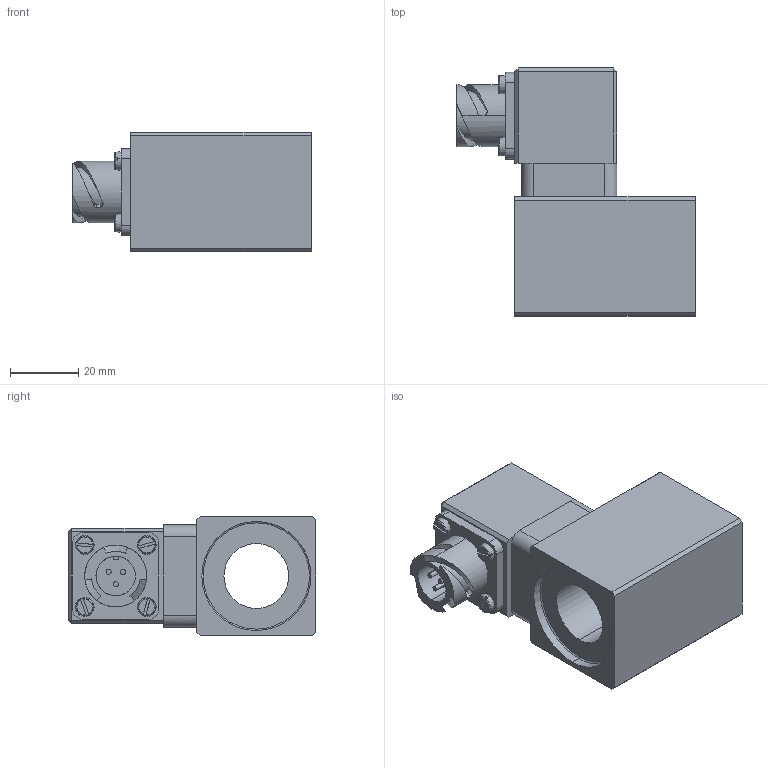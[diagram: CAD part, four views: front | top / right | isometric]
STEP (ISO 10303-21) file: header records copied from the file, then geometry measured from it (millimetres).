
FILE_DESCRIPTION (( 'STEP AP214' ), '1' );
FILE_NAME ('NBS35_19x50-AC.STEP', '2015-07-28T13:15:40', ( '' ), ( '' ), 'SwSTEP 2.0', 'SolidWorks 2014', '' );
FILE_SCHEMA (( 'AUTOMOTIVE_DESIGN' ));
Length unit declared in the file: millimetre
Products named in the file (2): NBS35_19x50-AC
Bounding box: 70 x 72.8 x 35 mm (x, y, z)
Volume: 82759 mm3; surface area: 21718.1 mm2
Topology: 5 solids, 10 shells, 322 faces, 787 edges, 494 vertices
Faces by surface type: plane 147, cylinder 94, cone 36, torus 30, bspline 15
Entity records: 13718 total; most frequent: CARTESIAN_POINT 2687, DIRECTION 1586, ORIENTED_EDGE 1550, EDGE_CURVE 775, AXIS2_PLACEMENT_3D 621, VERTEX_POINT 494, EDGE_LOOP 361, LINE 344
